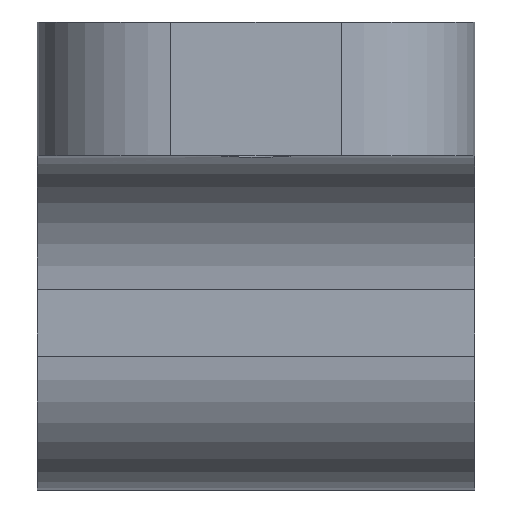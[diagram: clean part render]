
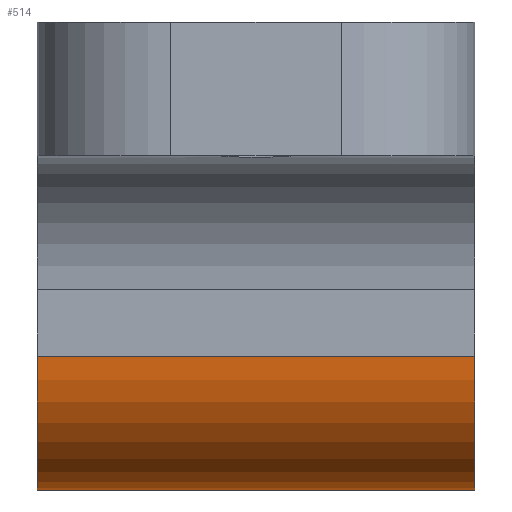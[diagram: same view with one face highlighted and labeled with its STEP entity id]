
A CAD part, front view. The second image highlights one B-rep face of the part: STEP entity #514.
In plain terms, the highlighted cylindrical face has radius 4 mm (diameter 8 mm), a partial arc.
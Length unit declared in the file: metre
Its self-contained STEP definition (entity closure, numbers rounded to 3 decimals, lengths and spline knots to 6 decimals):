
#22=CYLINDRICAL_SURFACE('',#577,0.004);
#40=CIRCLE('',#558,0.004);
#46=CIRCLE('',#565,0.004);
#182=ORIENTED_EDGE('',*,*,#257,.T.);
#183=ORIENTED_EDGE('',*,*,#226,.T.);
#184=ORIENTED_EDGE('',*,*,#265,.T.);
#185=ORIENTED_EDGE('',*,*,#220,.T.);
#220=EDGE_CURVE('',#293,#292,#338,.F.);
#226=EDGE_CURVE('',#295,#298,#344,.T.);
#257=EDGE_CURVE('',#292,#295,#40,.T.);
#265=EDGE_CURVE('',#298,#293,#46,.F.);
#292=VERTEX_POINT('',#779);
#293=VERTEX_POINT('',#781);
#295=VERTEX_POINT('',#787);
#298=VERTEX_POINT('',#792);
#338=LINE('',#780,#386);
#344=LINE('',#793,#392);
#386=VECTOR('',#621,1.);
#392=VECTOR('',#629,1.);
#444=EDGE_LOOP('',(#182,#183,#184,#185));
#474=FACE_BOUND('',#444,.T.);
#514=ADVANCED_FACE('',(#474),#22,.T.);
#558=AXIS2_PLACEMENT_3D('',#854,#682,#683);
#565=AXIS2_PLACEMENT_3D('',#863,#698,#699);
#577=AXIS2_PLACEMENT_3D('',#886,#723,#724);
#621=DIRECTION('',(1.,0.,0.));
#629=DIRECTION('',(1.,0.,0.));
#682=DIRECTION('',(1.,0.,0.));
#683=DIRECTION('',(0.,0.,-1.));
#698=DIRECTION('',(1.,0.,0.));
#699=DIRECTION('',(0.,0.,-1.));
#723=DIRECTION('',(1.,0.,0.));
#724=DIRECTION('',(0.,0.,1.));
#779=CARTESIAN_POINT('',(-0.06965,0.130944,0.011439));
#780=CARTESIAN_POINT('',(-0.06965,0.130944,0.011439));
#781=CARTESIAN_POINT('',(-0.05655,0.130944,0.011439));
#787=CARTESIAN_POINT('',(-0.06965,0.134944,0.007439));
#792=CARTESIAN_POINT('',(-0.05655,0.134944,0.007439));
#793=CARTESIAN_POINT('',(-0.06965,0.134944,0.007439));
#854=CARTESIAN_POINT('',(-0.06965,0.134944,0.011439));
#863=CARTESIAN_POINT('',(-0.05655,0.134944,0.011439));
#886=CARTESIAN_POINT('',(-0.06965,0.134944,0.011439));
